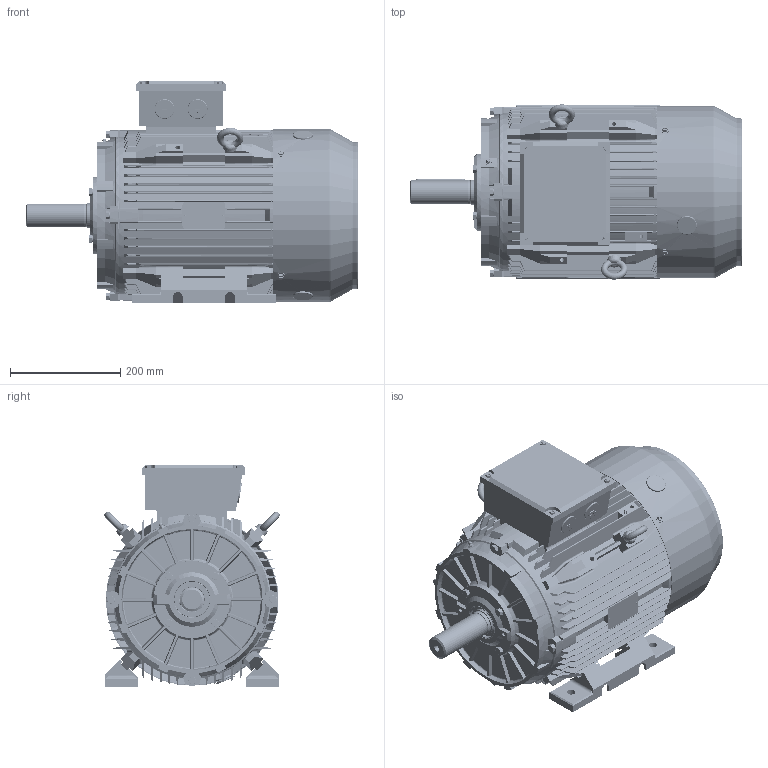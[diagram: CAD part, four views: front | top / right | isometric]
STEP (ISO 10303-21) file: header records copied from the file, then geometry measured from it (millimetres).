
FILE_DESCRIPTION (( 'STEP AP214' ), '1' );
FILE_NAME ('BCT4110.16D403.11.step', '2020-04-23T14:19:46', ( '' ), ( '' ), 'SwSTEP 2.0', 'SolidWorks 2019', '' );
FILE_SCHEMA (( 'AUTOMOTIVE_DESIGN' ));
Length unit declared in the file: millimetre
Products named in the file (1): BCT4110.16D403.11
Bounding box: 602.5 x 318.13 x 402.74 mm (x, y, z)
Volume: 8371906.6 mm3; surface area: 2686469.5 mm2
Topology: 53 solids, 54 shells, 6974 faces, 19926 edges, 13000 vertices
Faces by surface type: plane 3346, cylinder 2544, cone 463, torus 392, bspline 125, sphere 104
Entity records: 270667 total; most frequent: CARTESIAN_POINT 86987, ORIENTED_EDGE 39416, DIRECTION 37162, EDGE_CURVE 19708, AXIS2_PLACEMENT_3D 13084, VERTEX_POINT 12948, LINE 10994, VECTOR 10994
